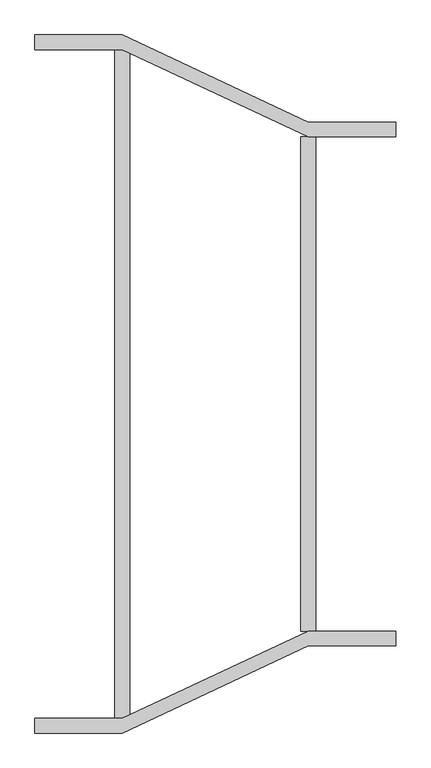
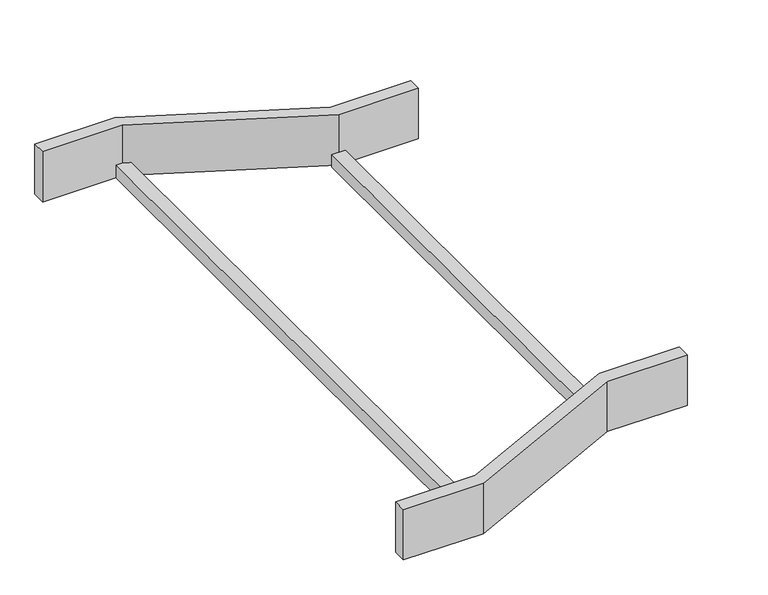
"""IFC4 building model written with IfcOpenShell, lengths in millimetres: cable carrier fitting geometry, BAKS_LD_RED_Straight reducer_RDSV : RDSVC_H100."""

import ifcopenshell
import ifcopenshell.guid

model = None  # the IFC model being written
_history = None  # IfcOwnerHistory: only IFC2X3 demands one
_inside = {}  # id of a spatial element -> (the spatial element, [elements in it])
_under = {}  # id of a project, library or spatial element -> (it, [spatial elements below it])
_declared = {}  # id of a project -> (the project, [libraries it declares])
_typed = {}  # id of a type object -> (the type object, [elements of that type])
_made_of = {}  # id of a material, layer set ... -> (it, [elements and type objects made of it])


def new_model(schema):
    """Start an empty IFC model of exactly this schema.

    Asked for "IFC4X3", IfcOpenShell would pick the latest addendum, in which some entities
    have other attributes; the version numbers below select the first issue.
    IFC2X3 requires an IfcOwnerHistory on every rooted entity: one is made here for all.
    """
    global model, _history
    if schema == "IFC4X3":
        model = ifcopenshell.file(schema_version=(4, 3, 0, 0))
    else:
        model = ifcopenshell.file(schema=schema)
    _inside.clear()
    _under.clear()
    _declared.clear()
    _typed.clear()
    _made_of.clear()
    _history = None
    if model.schema == "IFC2X3":
        org = make("IfcOrganization", Name="unknown")
        user = make(
            "IfcPersonAndOrganization",
            ThePerson=make("IfcPerson", FamilyName="unknown"),
            TheOrganization=org,
        )
        app = make(
            "IfcApplication",
            ApplicationDeveloper=org,
            Version="unknown",
            ApplicationFullName="unknown",
            ApplicationIdentifier="unknown",
        )
        _history = make(
            "IfcOwnerHistory",
            OwningUser=user,
            OwningApplication=app,
            ChangeAction="ADDED",
            CreationDate=0,
        )
    return model


def make(cls, **values):
    """One entity of the class cls with the attributes given. An attribute that is None is left unset."""
    return model.create_entity(
        cls, **{name: value for name, value in values.items() if value is not None}
    )


def rooted(cls, **values):
    """An entity with a GlobalId (a new one), such as an element, a storey or a relation."""
    return make(cls, GlobalId=ifcopenshell.guid.new(), OwnerHistory=_history, **values)


def si_unit(unit_type, name, prefix=None):
    """IfcSIUnit, for example si_unit("LENGTHUNIT", "METRE", prefix="MILLI")."""
    return make("IfcSIUnit", UnitType=unit_type, Prefix=prefix, Name=name)


def assignment(units):
    """IfcUnitAssignment: the units of a project."""
    return None if units is None else make("IfcUnitAssignment", Units=units)


def point(xyz):
    """IfcCartesianPoint."""
    return None if xyz is None else make("IfcCartesianPoint", Coordinates=xyz)


def direction(xyz):
    """IfcDirection."""
    return None if xyz is None else make("IfcDirection", DirectionRatios=xyz)


def frame(location, z_axis=None, x_axis=None):
    """IfcAxis2Placement3D, a coordinate frame: its origin and axes. An axis left out is left unset."""
    return make(
        "IfcAxis2Placement3D",
        Location=point(location),
        Axis=direction(z_axis),
        RefDirection=direction(x_axis),
    )


def origin():
    """The frame at (0, 0, 0) with its axes left unset."""
    return frame((0.0, 0.0, 0.0))


def place(relative_to, where):
    """IfcLocalPlacement: puts the frame where relative to a parent placement (None: the world)."""
    return make(
        "IfcLocalPlacement", PlacementRelTo=relative_to, RelativePlacement=where
    )


def context(
    kind, dimensions, precision=None, world=None, true_north=None, identifier=None
):
    """IfcGeometricRepresentationContext, for example the 3D "Model" context."""
    return make(
        "IfcGeometricRepresentationContext",
        ContextIdentifier=identifier,
        ContextType=kind,
        CoordinateSpaceDimension=dimensions,
        Precision=precision,
        WorldCoordinateSystem=world,
        TrueNorth=true_north,
    )


def project(units=None, contexts=None):
    """IfcProject with its units and contexts."""
    return rooted(
        "IfcProject",
        Name="project",
        RepresentationContexts=contexts,
        UnitsInContext=assignment(units),
    )


def spatial(cls, under=None, at=None, **own):
    """A site, building, storey or space (cls), placed at a placement, below another one or the project."""
    s = rooted(cls, ObjectPlacement=at, **own)
    if under is not None:
        _under.setdefault(under.id(), (under, []))[1].append(s)
    return s


def polyline(points):
    """IfcPolyline through the points."""
    return make("IfcPolyline", Points=[point(p) for p in points])


def outline(outer, holes=None, kind="AREA"):
    """IfcArbitraryClosedProfileDef: a profile drawn as a closed curve; with holes, ...WithVoids."""
    if holes is None:
        return make("IfcArbitraryClosedProfileDef", ProfileType=kind, OuterCurve=outer)
    return make(
        "IfcArbitraryProfileDefWithVoids",
        ProfileType=kind,
        OuterCurve=outer,
        InnerCurves=holes,
    )


def extrude(swept, where, along, depth):
    """IfcExtrudedAreaSolid: the profile swept, set in the frame where, extruded along a direction by depth."""
    return make(
        "IfcExtrudedAreaSolid",
        SweptArea=swept,
        Position=where,
        ExtrudedDirection=direction(along),
        Depth=depth,
    )


def shape(context_of_items, identifier, shape_type, items):
    """IfcShapeRepresentation: the items that make up one representation, for example the "Body"."""
    return make(
        "IfcShapeRepresentation",
        ContextOfItems=context_of_items,
        RepresentationIdentifier=identifier,
        RepresentationType=shape_type,
        Items=items,
    )


def source(mapping_origin, context_of_items, identifier, shape_type, items):
    """IfcRepresentationMap: a shape defined once, which mapped items show again and again."""
    return make(
        "IfcRepresentationMap",
        MappingOrigin=mapping_origin,
        MappedRepresentation=shape(context_of_items, identifier, shape_type, items),
    )


def transform(
    local_origin,
    x_axis=None,
    y_axis=None,
    z_axis=None,
    scale=None,
    scale2=None,
    scale3=None,
    uniform=True,
):
    """IfcCartesianTransformationOperator3D, or its non-uniform kind. x_axis, y_axis, z_axis: its Axis1, 2, 3."""
    if uniform:
        return make(
            "IfcCartesianTransformationOperator3D",
            Axis1=direction(x_axis),
            Axis2=direction(y_axis),
            LocalOrigin=point(local_origin),
            Scale=scale,
            Axis3=direction(z_axis),
        )
    return make(
        "IfcCartesianTransformationOperator3DnonUniform",
        Axis1=direction(x_axis),
        Axis2=direction(y_axis),
        LocalOrigin=point(local_origin),
        Scale=scale,
        Axis3=direction(z_axis),
        Scale2=scale2,
        Scale3=scale3,
    )


def mapped(mapping_source, mapping_target):
    """IfcMappedItem: shows the shape of a source again, moved by a transform."""
    return make(
        "IfcMappedItem", MappingSource=mapping_source, MappingTarget=mapping_target
    )


def made_of(thing, what):
    """Note that an element or type object is made of a material, layer set ...; save() writes the relation."""
    if what is not None:
        _made_of.setdefault(what.id(), (what, []))[1].append(thing)
    return thing


def element(
    cls,
    number,
    at=None,
    inside=None,
    cuts=None,
    type_object=None,
    material=None,
    context=None,
    identifier="Body",
    shape_type=None,
    held_by="IfcProductDefinitionShape",
    body=None,
    shapes=None,
    **own,
):
    """One element of the class cls, such as IfcWall. Its Tag is "e" and its number.

    at: its placement. inside: the storey or other place that contains it. cuts: it is an
    opening in that element (IfcRelVoidsElement). A single representation is given by context,
    identifier, shape_type and body (its items); several are given by shapes. held_by: the class
    of the entity that holds the representations. save() writes the other relations.
    """
    e = rooted(cls, Tag="e%d" % number, ObjectPlacement=at, **own)
    if body is not None:
        shapes = [shape(context, identifier, shape_type, body)]
    if shapes is not None:
        e.Representation = make(held_by, Representations=shapes)
    if inside is not None:
        _inside.setdefault(inside.id(), (inside, []))[1].append(e)
    if cuts is not None:
        rooted(
            "IfcRelVoidsElement", RelatingBuildingElement=cuts, RelatedOpeningElement=e
        )
    if type_object is not None:
        _typed.setdefault(type_object.id(), (type_object, []))[1].append(e)
    return made_of(e, material)


def aggregate(whole, parts):
    """IfcRelAggregates: a whole, such as a stair, and the parts it consists of."""
    return rooted("IfcRelAggregates", RelatingObject=whole, RelatedObjects=parts)


def save(model, path):
    """Write the relations noted so far, then the file.

    IfcRelAggregates (storeys below a building ...), IfcRelContainedInSpatialStructure (elements
    in a storey), IfcRelDefinesByType, IfcRelAssociatesMaterial and IfcRelDeclares: one each for
    every whole, place, type object, material and project.
    """
    for whole, parts in _under.values():
        aggregate(whole, parts)
    for where, things in _inside.values():
        rooted(
            "IfcRelContainedInSpatialStructure",
            RelatedElements=things,
            RelatingStructure=where,
        )
    for kind, things in _typed.values():
        rooted("IfcRelDefinesByType", RelatedObjects=things, RelatingType=kind)
    for what, things in _made_of.values():
        rooted("IfcRelAssociatesMaterial", RelatedObjects=things, RelatingMaterial=what)
    for by, libraries in _declared.values():
        rooted("IfcRelDeclares", RelatingContext=by, RelatedDefinitions=libraries)
    model.write(path)


def cable_carrier_fitting_d731d6d4(model_context):
    return source(origin(), model_context, "Body", "SweptSolid", [
        extrude(outline(polyline([(0.0, -600.0), (0.0, -574.6), (150.0, -574.6), (470.0, -424.6), (620.0, -424.6), (620.0, -450.0), (470.0, -450.0), (150.0, -600.0), (0.0, -600.0)])), frame((0.0, 0.0, -50.0), z_axis=(0.0, 0.0, 1.0), x_axis=(1.0, 0.0, 0.0)), (0.0, 0.0, 1.0), 100.0),
        extrude(outline(polyline([(0.0, 574.6), (0.0, 600.0), (150.0, 600.0), (470.0, 450.0), (620.0, 450.0), (620.0, 424.6), (470.0, 424.6), (150.0, 574.6), (0.0, 574.6)])), frame((0.0, 0.0, -50.0), z_axis=(0.0, 0.0, 1.0), x_axis=(1.0, 0.0, 0.0)), (0.0, 0.0, 1.0), 100.0),
        extrude(outline(polyline([(457.3, 424.6), (482.7, 424.6), (482.7, -424.6), (457.3, -424.6), (457.3, 424.6)])), frame((0.0, 0.0, -50.0), z_axis=(0.0, 0.0, 1.0), x_axis=(1.0, 0.0, 0.0)), (0.0, 0.0, 1.0), 25.4),
        extrude(outline(polyline([(137.3, 574.6), (162.7, 574.6), (162.7, -574.6), (137.3, -574.6), (137.3, 574.6)])), frame((0.0, 0.0, -50.0), z_axis=(0.0, 0.0, 1.0), x_axis=(1.0, 0.0, 0.0)), (0.0, 0.0, 1.0), 25.4),
    ])


if __name__ == "__main__":
    model = new_model("IFC4")
    model_context = context("Model", 3, world=origin())
    ifc_project = project(units=[si_unit("LENGTHUNIT", "METRE", prefix="MILLI")], contexts=[model_context])
    site = spatial("IfcSite", under=ifc_project)
    building = spatial("IfcBuilding", under=site)
    placement = place(None, origin())
    cable_carrier_fitting_shape = cable_carrier_fitting_d731d6d4(model_context)
    element("IfcCableCarrierFitting", 1, ObjectType="BAKS_LD_RED_Straight reducer_RDSV : RDSVC_H100", at=placement, inside=building, context=model_context, shape_type="MappedRepresentation", body=[
        mapped(cable_carrier_fitting_shape, transform((0.0, 0.0, 0.0), x_axis=(1.0, 0.0, 0.0), y_axis=(0.0, 1.0, 0.0), z_axis=(0.0, 0.0, 1.0))),
    ])
    save(model, "model.ifc")
